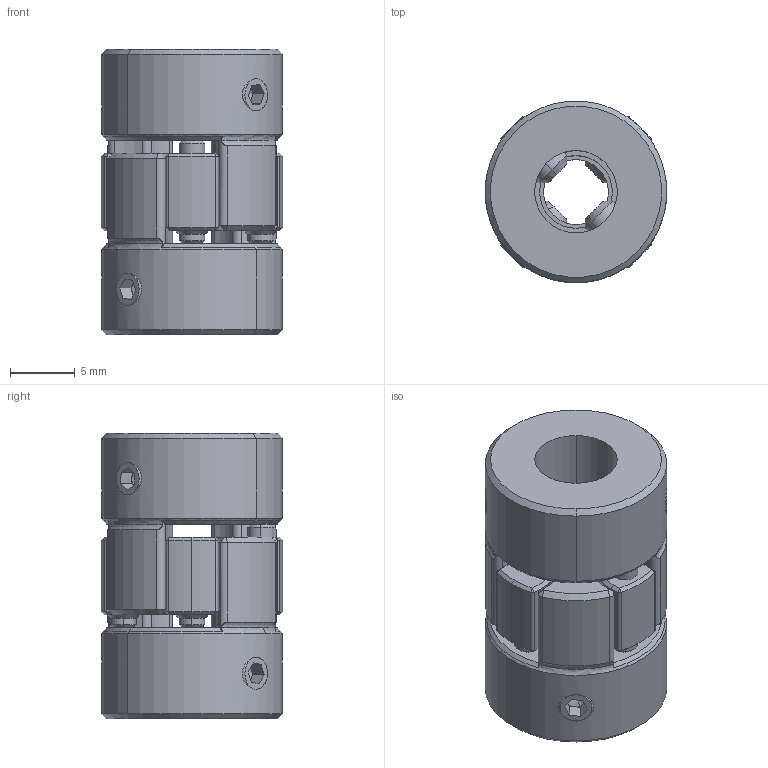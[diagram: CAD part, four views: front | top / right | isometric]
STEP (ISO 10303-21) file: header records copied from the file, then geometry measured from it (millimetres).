
FILE_DESCRIPTION (( 'STEP AP203' ), '1' );
FILE_NAME ('LF-D-D14L22-5-6.35.STEP', '2021-10-26T05:40:42', ( '' ), ( '' ), 'SwSTEP 2.0', 'SolidWorks 2018', '' );
FILE_SCHEMA (( 'CONFIG_CONTROL_DESIGN' ));
Length unit declared in the file: millimetre
Products named in the file (1): LF-D-D14L22-5-6.35
Bounding box: 14 x 14 x 22 mm (x, y, z)
Volume: 2620.8 mm3; surface area: 2163.7 mm2
Topology: 1 solids, 1 shells, 353 faces, 887 edges, 512 vertices
Faces by surface type: cone 164, cylinder 115, plane 66, torus 8
Entity records: 10839 total; most frequent: CARTESIAN_POINT 2244, DIRECTION 1927, ORIENTED_EDGE 1726, EDGE_CURVE 863, AXIS2_PLACEMENT_3D 776, VERTEX_POINT 512, CIRCLE 422, EDGE_LOOP 383
